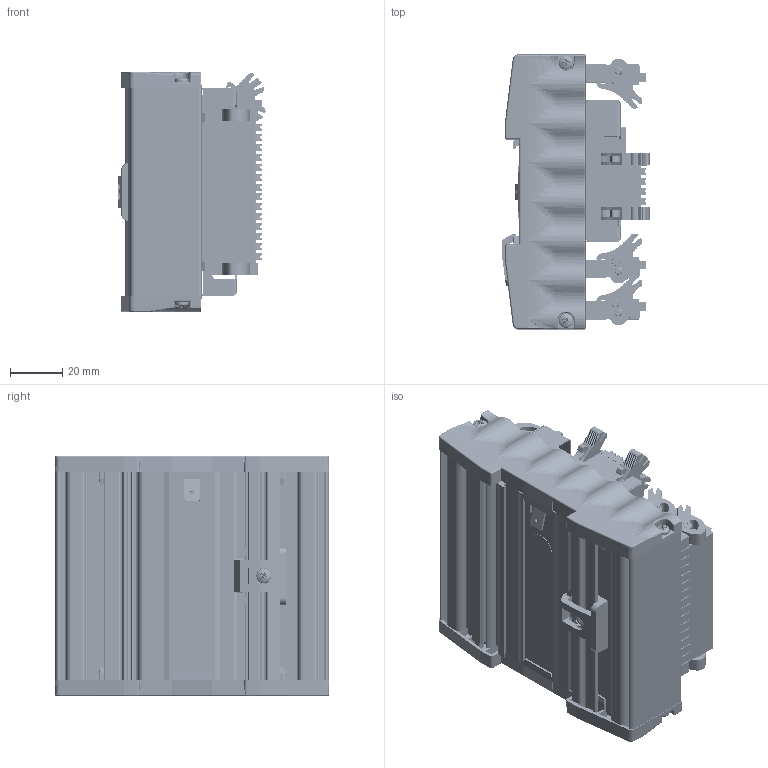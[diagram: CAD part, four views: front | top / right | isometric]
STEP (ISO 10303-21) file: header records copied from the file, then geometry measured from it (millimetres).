
FILE_DESCRIPTION (( 'STEP AP214' ), '1' );
FILE_NAME ('EC_COMPACT_AIO_Stand09022016_reduziert.STEP', '2016-03-17T16:27:30', ( '' ), ( '' ), 'SwSTEP 2.0', 'SolidWorks 2016', '' );
FILE_SCHEMA (( 'AUTOMOTIVE_DESIGN' ));
Length unit declared in the file: millimetre
Products named in the file (1): EC_COMPACT_AIO_Stand09022016_reduziert
Bounding box: 56.35 x 105.4 x 92.07 mm (x, y, z)
Surface area: 147048.9 mm2 (no closed solid volume)
Topology: 0 solids, 387 shells, 23144 faces, 57738 edges, 34200 vertices
Faces by surface type: plane 11335, cylinder 7487, torus 1593, sphere 1180, bspline 1144, cone 405
Entity records: 960626 total; most frequent: CARTESIAN_POINT 163677, DIRECTION 113694, ORIENTED_EDGE 111382, EDGE_CURVE 55701, AXIS2_PLACEMENT_3D 38817, LINE 36060, VECTOR 36060, VERTEX_POINT 33813
